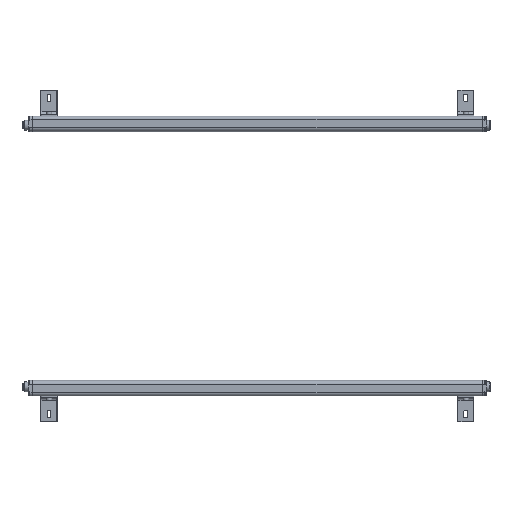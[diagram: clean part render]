
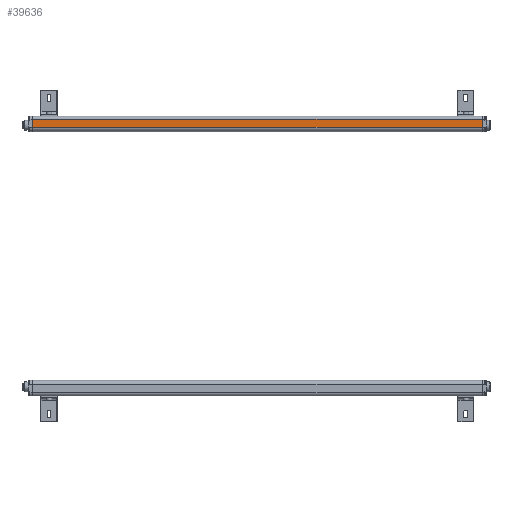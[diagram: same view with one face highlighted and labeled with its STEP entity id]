
A CAD part, left-side view. The second image highlights one B-rep face of the part: STEP entity #39636.
In plain terms, the highlighted planar face has unit normal (-1, 0, 0).
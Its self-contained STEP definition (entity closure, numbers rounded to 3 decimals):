
#6789 = VERTEX_POINT ( 'NONE', #78717 ) ;
#9012 = LINE ( 'NONE', #78470, #142143 ) ;
#12620 = FACE_OUTER_BOUND ( 'NONE', #30580, .T. ) ;
#29626 = EDGE_CURVE ( 'NONE', #130823, #90986, #98166, .T. ) ;
#29672 = LINE ( 'NONE', #37722, #88476 ) ;
#30580 = EDGE_LOOP ( 'NONE', ( #132188, #114014, #83648, #90301 ) ) ;
#32879 = CARTESIAN_POINT ( 'NONE',  ( -17.35, 0., -6.175 ) ) ;
#35283 = CARTESIAN_POINT ( 'NONE',  ( -17.35, 805., -6.175 ) ) ;
#37722 = CARTESIAN_POINT ( 'NONE',  ( -17.35, 0., 8.225 ) ) ;
#39636 = ADVANCED_FACE ( 'NONE', ( #12620 ), #63398, .T. ) ;
#40815 = CARTESIAN_POINT ( 'NONE',  ( -17.35, 0., 0. ) ) ;
#44498 = CARTESIAN_POINT ( 'NONE',  ( -17.35, 0., -6.175 ) ) ;
#45409 = EDGE_CURVE ( 'NONE', #6789, #90986, #29672, .T. ) ;
#52382 = DIRECTION ( 'NONE',  ( 0., 0., 1. ) ) ;
#57394 = VECTOR ( 'NONE', #122392, 1000. ) ;
#63398 = PLANE ( 'NONE',  #102368 ) ;
#65338 = DIRECTION ( 'NONE',  ( 0., 0., 1. ) ) ;
#78470 = CARTESIAN_POINT ( 'NONE',  ( -17.35, 0., -6.175 ) ) ;
#78717 = CARTESIAN_POINT ( 'NONE',  ( -17.35, 805., 8.225 ) ) ;
#83648 = ORIENTED_EDGE ( 'NONE', *, *, #45409, .F. ) ;
#86786 = LINE ( 'NONE', #110322, #57394 ) ;
#88476 = VECTOR ( 'NONE', #114502, 1000. ) ;
#90301 = ORIENTED_EDGE ( 'NONE', *, *, #97100, .F. ) ;
#90986 = VERTEX_POINT ( 'NONE', #115602 ) ;
#97100 = EDGE_CURVE ( 'NONE', #137163, #6789, #86786, .T. ) ;
#98166 = LINE ( 'NONE', #40815, #117135 ) ;
#102368 = AXIS2_PLACEMENT_3D ( 'NONE', #44498, #131000, #65338 ) ;
#110322 = CARTESIAN_POINT ( 'NONE',  ( -17.35, 805., 0. ) ) ;
#114014 = ORIENTED_EDGE ( 'NONE', *, *, #29626, .T. ) ;
#114502 = DIRECTION ( 'NONE',  ( 0., -1., 0. ) ) ;
#115602 = CARTESIAN_POINT ( 'NONE',  ( -17.35, 0., 8.225 ) ) ;
#117135 = VECTOR ( 'NONE', #52382, 1000. ) ;
#122392 = DIRECTION ( 'NONE',  ( 0., 0., 1. ) ) ;
#123326 = DIRECTION ( 'NONE',  ( 0., -1., 0. ) ) ;
#130823 = VERTEX_POINT ( 'NONE', #32879 ) ;
#131000 = DIRECTION ( 'NONE',  ( -1., 0., 0. ) ) ;
#132188 = ORIENTED_EDGE ( 'NONE', *, *, #143247, .T. ) ;
#137163 = VERTEX_POINT ( 'NONE', #35283 ) ;
#142143 = VECTOR ( 'NONE', #123326, 1000. ) ;
#143247 = EDGE_CURVE ( 'NONE', #137163, #130823, #9012, .T. ) ;
